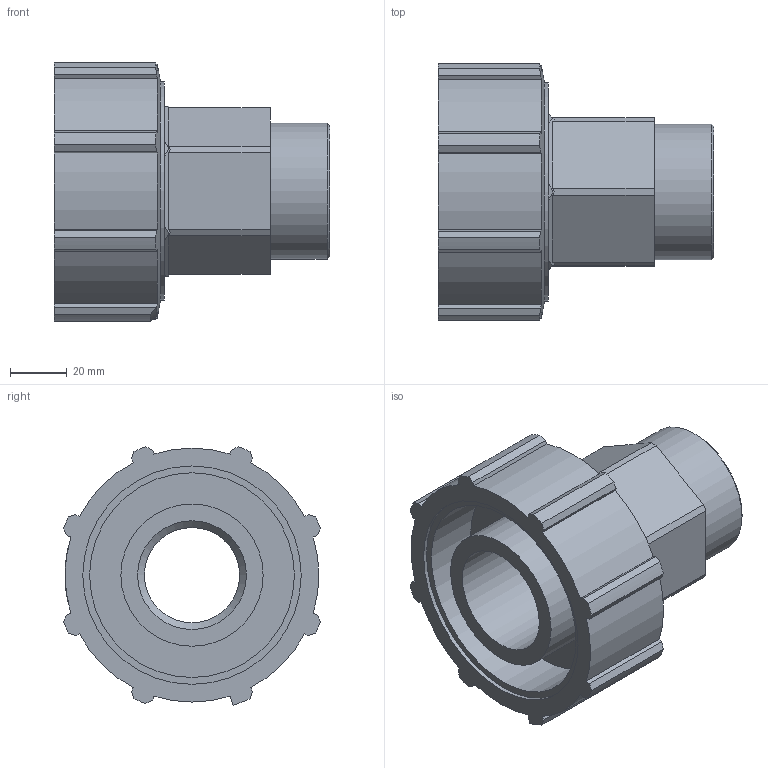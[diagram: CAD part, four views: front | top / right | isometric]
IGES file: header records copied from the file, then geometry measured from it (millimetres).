
Global section: file name: 072700050015_182700050015_72706050015.ipt; native system: Autodesk Inventor 2015; preprocessor: unknown; author: KIM; date: 20170606.172348; units: millimetre
Bounding box: 97 x 90.33 x 90.94 mm (x, y, z)
Volume: 208941.5 mm3; surface area: 57391.1 mm2
Topology: 1 solids, 1 shells, 92 faces, 258 edges, 174 vertices
Faces by surface type: plane 63, cylinder 20, revolution 6, cone 3
Full cylindrical faces by diameter (mm): 47.803 x1, 50 x1, 59.8 x1, 76.8 x1
